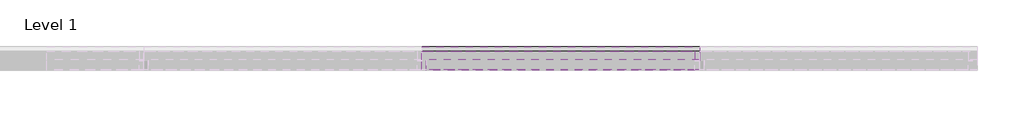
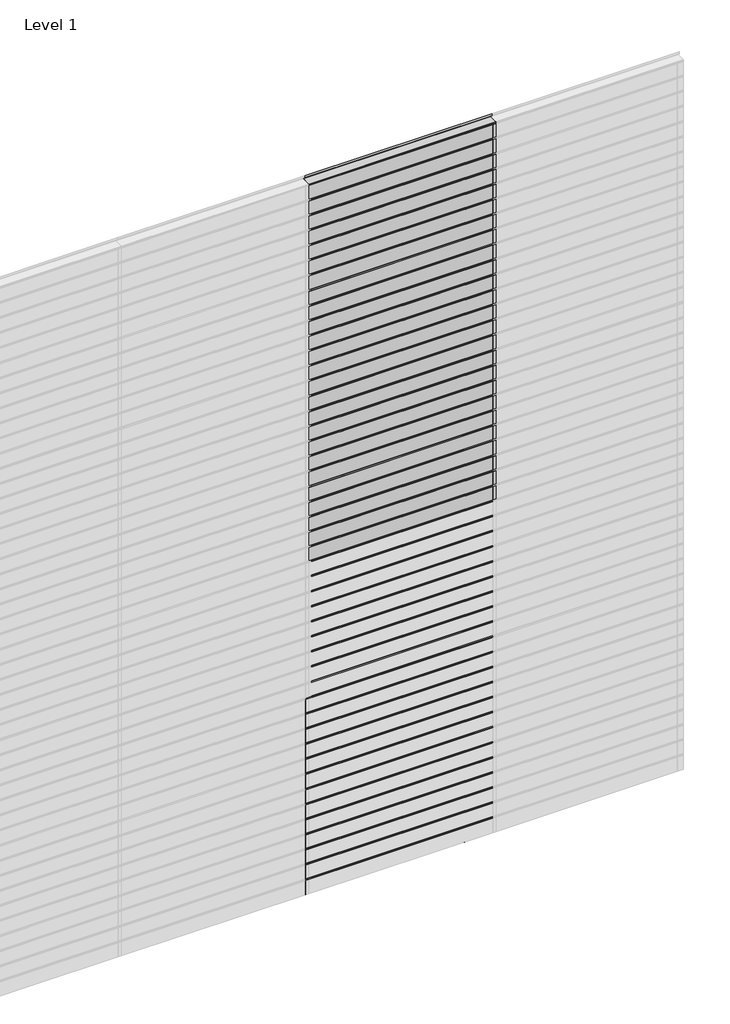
# One storey, part 4 of 6: 73 plates, 60 members.
"""IFC4 building model written with IfcOpenShell, lengths in millimetres."""

from ifc_helpers import new_model, si_unit, origin, place, context, project, spatial, transform, mapped, element, save
from components import rectangular_mullion_0894c78b, rectangular_mullion_172e3795, empty_system_panel_empty_a47fb649, empty_system_panel_empty_1618a703, empty_system_panel_empty_03f415d5

model = new_model("IFC4")

# Units and contexts
model_context = context("Model", 3, world=origin())
ifc_project = project(units=[si_unit("LENGTHUNIT", "METRE", prefix="MILLI")], contexts=[model_context])

# Site, building, storey
site = spatial("IfcSite", under=ifc_project)
building = spatial("IfcBuilding", under=site)
storey = spatial("IfcBuildingStorey", under=building, Name="Level 1", Elevation=0.0)

# Members
placement = place(None, origin())
rectangular_mullion_shape = rectangular_mullion_0894c78b(model_context)
element("IfcMember", 1, ObjectType="Rectangular Mullion : RSen_21_CWM_blade - 100 C_gen_duco projects", at=placement, inside=storey, context=model_context, shape_type="MappedRepresentation", body=[
    mapped(rectangular_mullion_shape, transform((3000.0, 3000.0, 127.5), x_axis=(0.0, 0.0, 1.0), y_axis=(0.0, 1.0, 0.0), z_axis=(-1.0, 0.0, 0.0))),
])
element("IfcMember", 2, ObjectType="Rectangular Mullion : RSen_21_CWM_blade - 100 C_gen_duco projects", at=placement, inside=storey, context=model_context, shape_type="MappedRepresentation", body=[
    mapped(rectangular_mullion_shape, transform((3000.0, 3000.0, 255.0), x_axis=(0.0, 0.0, 1.0), y_axis=(0.0, 1.0, 0.0), z_axis=(-1.0, 0.0, 0.0))),
])
element("IfcMember", 3, ObjectType="Rectangular Mullion : RSen_21_CWM_blade - 100 C_gen_duco projects", at=placement, inside=storey, context=model_context, shape_type="MappedRepresentation", body=[
    mapped(rectangular_mullion_shape, transform((3000.0, 3000.0, 382.5), x_axis=(0.0, 0.0, 1.0), y_axis=(0.0, 1.0, 0.0), z_axis=(-1.0, 0.0, 0.0))),
])
element("IfcMember", 4, ObjectType="Rectangular Mullion : RSen_21_CWM_blade - 100 C_gen_duco projects", at=placement, inside=storey, context=model_context, shape_type="MappedRepresentation", body=[
    mapped(rectangular_mullion_shape, transform((3000.0, 3000.0, 510.0), x_axis=(0.0, 0.0, 1.0), y_axis=(0.0, 1.0, 0.0), z_axis=(-1.0, 0.0, 0.0))),
])
element("IfcMember", 5, ObjectType="Rectangular Mullion : RSen_21_CWM_blade - 100 C_gen_duco projects", at=placement, inside=storey, context=model_context, shape_type="MappedRepresentation", body=[
    mapped(rectangular_mullion_shape, transform((3000.0, 3000.0, 637.5), x_axis=(0.0, 0.0, 1.0), y_axis=(0.0, 1.0, 0.0), z_axis=(-1.0, 0.0, 0.0))),
])
element("IfcMember", 6, ObjectType="Rectangular Mullion : RSen_21_CWM_blade - 100 C_gen_duco projects", at=placement, inside=storey, context=model_context, shape_type="MappedRepresentation", body=[
    mapped(rectangular_mullion_shape, transform((3000.0, 3000.0, 765.0), x_axis=(0.0, 0.0, 1.0), y_axis=(0.0, 1.0, 0.0), z_axis=(-1.0, 0.0, 0.0))),
])
element("IfcMember", 7, ObjectType="Rectangular Mullion : RSen_21_CWM_blade - 100 C_gen_duco projects", at=placement, inside=storey, context=model_context, shape_type="MappedRepresentation", body=[
    mapped(rectangular_mullion_shape, transform((3000.0, 3000.0, 892.5), x_axis=(0.0, 0.0, 1.0), y_axis=(0.0, 1.0, 0.0), z_axis=(-1.0, 0.0, 0.0))),
])
element("IfcMember", 8, ObjectType="Rectangular Mullion : RSen_21_CWM_blade - 100 C_gen_duco projects", at=placement, inside=storey, context=model_context, shape_type="MappedRepresentation", body=[
    mapped(rectangular_mullion_shape, transform((3000.0, 3000.0, 1020.0), x_axis=(0.0, 0.0, 1.0), y_axis=(0.0, 1.0, 0.0), z_axis=(-1.0, 0.0, 0.0))),
])
element("IfcMember", 9, ObjectType="Rectangular Mullion : RSen_21_CWM_blade - 100 C_gen_duco projects", at=placement, inside=storey, context=model_context, shape_type="MappedRepresentation", body=[
    mapped(rectangular_mullion_shape, transform((3000.0, 3000.0, 1147.5), x_axis=(0.0, 0.0, 1.0), y_axis=(0.0, 1.0, 0.0), z_axis=(-1.0, 0.0, 0.0))),
])
element("IfcMember", 10, ObjectType="Rectangular Mullion : RSen_21_CWM_blade - 100 C_gen_duco projects", at=placement, inside=storey, context=model_context, shape_type="MappedRepresentation", body=[
    mapped(rectangular_mullion_shape, transform((3000.0, 3000.0, 1275.0), x_axis=(0.0, 0.0, 1.0), y_axis=(0.0, 1.0, 0.0), z_axis=(-1.0, 0.0, 0.0))),
])
element("IfcMember", 11, ObjectType="Rectangular Mullion : RSen_21_CWM_blade - 100 C_gen_duco projects", at=placement, inside=storey, context=model_context, shape_type="MappedRepresentation", body=[
    mapped(rectangular_mullion_shape, transform((3000.0, 3000.0, 1402.5), x_axis=(0.0, 0.0, 1.0), y_axis=(0.0, 1.0, 0.0), z_axis=(-1.0, 0.0, 0.0))),
])
element("IfcMember", 12, ObjectType="Rectangular Mullion : RSen_21_CWM_blade - 100 C_gen_duco projects", at=placement, inside=storey, context=model_context, shape_type="MappedRepresentation", body=[
    mapped(rectangular_mullion_shape, transform((3000.0, 3000.0, 1530.0), x_axis=(0.0, 0.0, 1.0), y_axis=(0.0, 1.0, 0.0), z_axis=(-1.0, 0.0, 0.0))),
])
element("IfcMember", 13, ObjectType="Rectangular Mullion : RSen_21_CWM_blade - 100 C_gen_duco projects", at=placement, inside=storey, context=model_context, shape_type="MappedRepresentation", body=[
    mapped(rectangular_mullion_shape, transform((3000.0, 3000.0, 1657.5), x_axis=(0.0, 0.0, 1.0), y_axis=(0.0, 1.0, 0.0), z_axis=(-1.0, 0.0, 0.0))),
])
element("IfcMember", 14, ObjectType="Rectangular Mullion : RSen_21_CWM_blade - 100 C_gen_duco projects", at=placement, inside=storey, context=model_context, shape_type="MappedRepresentation", body=[
    mapped(rectangular_mullion_shape, transform((3000.0, 3000.0, 1785.0), x_axis=(0.0, 0.0, 1.0), y_axis=(0.0, 1.0, 0.0), z_axis=(-1.0, 0.0, 0.0))),
])
element("IfcMember", 15, ObjectType="Rectangular Mullion : RSen_21_CWM_blade - 100 C_gen_duco projects", at=placement, inside=storey, context=model_context, shape_type="MappedRepresentation", body=[
    mapped(rectangular_mullion_shape, transform((3000.0, 3000.0, 1912.5), x_axis=(0.0, 0.0, 1.0), y_axis=(0.0, 1.0, 0.0), z_axis=(-1.0, 0.0, 0.0))),
])
element("IfcMember", 16, ObjectType="Rectangular Mullion : RSen_21_CWM_blade - 100 C_gen_duco projects", at=placement, inside=storey, context=model_context, shape_type="MappedRepresentation", body=[
    mapped(rectangular_mullion_shape, transform((3000.0, 3000.0, 2040.0), x_axis=(0.0, 0.0, 1.0), y_axis=(0.0, 1.0, 0.0), z_axis=(-1.0, 0.0, 0.0))),
])
element("IfcMember", 17, ObjectType="Rectangular Mullion : RSen_21_CWM_blade - 100 C_gen_duco projects", at=placement, inside=storey, context=model_context, shape_type="MappedRepresentation", body=[
    mapped(rectangular_mullion_shape, transform((3000.0, 3000.0, 2167.5), x_axis=(0.0, 0.0, 1.0), y_axis=(0.0, 1.0, 0.0), z_axis=(-1.0, 0.0, 0.0))),
])
element("IfcMember", 18, ObjectType="Rectangular Mullion : RSen_21_CWM_blade - 100 C_gen_duco projects", at=placement, inside=storey, context=model_context, shape_type="MappedRepresentation", body=[
    mapped(rectangular_mullion_shape, transform((3000.0, 3000.0, 2295.0), x_axis=(0.0, 0.0, 1.0), y_axis=(0.0, 1.0, 0.0), z_axis=(-1.0, 0.0, 0.0))),
])
element("IfcMember", 19, ObjectType="Rectangular Mullion : RSen_21_CWM_blade - 100 C_gen_duco projects", at=placement, inside=storey, context=model_context, shape_type="MappedRepresentation", body=[
    mapped(rectangular_mullion_shape, transform((3000.0, 3000.0, 2422.5), x_axis=(0.0, 0.0, 1.0), y_axis=(0.0, 1.0, 0.0), z_axis=(-1.0, 0.0, 0.0))),
])
element("IfcMember", 20, ObjectType="Rectangular Mullion : RSen_21_CWM_blade - 100 C_gen_duco projects", at=placement, inside=storey, context=model_context, shape_type="MappedRepresentation", body=[
    mapped(rectangular_mullion_shape, transform((3000.0, 3000.0, 2550.0), x_axis=(0.0, 0.0, 1.0), y_axis=(0.0, 1.0, 0.0), z_axis=(-1.0, 0.0, 0.0))),
])
element("IfcMember", 21, ObjectType="Rectangular Mullion : RSen_21_CWM_blade - 100 C_gen_duco projects", at=placement, inside=storey, context=model_context, shape_type="MappedRepresentation", body=[
    mapped(rectangular_mullion_shape, transform((3000.0, 3000.0, 2677.5), x_axis=(0.0, 0.0, 1.0), y_axis=(0.0, 1.0, 0.0), z_axis=(-1.0, 0.0, 0.0))),
])
element("IfcMember", 22, ObjectType="Rectangular Mullion : RSen_21_CWM_blade - 100 C_gen_duco projects", at=placement, inside=storey, context=model_context, shape_type="MappedRepresentation", body=[
    mapped(rectangular_mullion_shape, transform((3000.0, 3000.0, 2805.0), x_axis=(0.0, 0.0, 1.0), y_axis=(0.0, 1.0, 0.0), z_axis=(-1.0, 0.0, 0.0))),
])
element("IfcMember", 23, ObjectType="Rectangular Mullion : RSen_21_CWM_blade - 100 C_gen_duco projects", at=placement, inside=storey, context=model_context, shape_type="MappedRepresentation", body=[
    mapped(rectangular_mullion_shape, transform((3000.0, 3000.0, 2932.5), x_axis=(0.0, 0.0, 1.0), y_axis=(0.0, 1.0, 0.0), z_axis=(-1.0, 0.0, 0.0))),
])
element("IfcMember", 24, ObjectType="Rectangular Mullion : RSen_21_CWM_blade - 100 C_gen_duco projects", at=placement, inside=storey, context=model_context, shape_type="MappedRepresentation", body=[
    mapped(rectangular_mullion_shape, transform((3000.0, 3000.0, 3060.0), x_axis=(0.0, 0.0, 1.0), y_axis=(0.0, 1.0, 0.0), z_axis=(-1.0, 0.0, 0.0))),
])
element("IfcMember", 25, ObjectType="Rectangular Mullion : RSen_21_CWM_blade - 100 C_gen_duco projects", at=placement, inside=storey, context=model_context, shape_type="MappedRepresentation", body=[
    mapped(rectangular_mullion_shape, transform((3000.0, 3000.0, 3187.5), x_axis=(0.0, 0.0, 1.0), y_axis=(0.0, 1.0, 0.0), z_axis=(-1.0, 0.0, 0.0))),
])
element("IfcMember", 26, ObjectType="Rectangular Mullion : RSen_21_CWM_blade - 100 C_gen_duco projects", at=placement, inside=storey, context=model_context, shape_type="MappedRepresentation", body=[
    mapped(rectangular_mullion_shape, transform((3000.0, 3000.0, 3315.0), x_axis=(0.0, 0.0, 1.0), y_axis=(0.0, 1.0, 0.0), z_axis=(-1.0, 0.0, 0.0))),
])
element("IfcMember", 27, ObjectType="Rectangular Mullion : RSen_21_CWM_blade - 100 C_gen_duco projects", at=placement, inside=storey, context=model_context, shape_type="MappedRepresentation", body=[
    mapped(rectangular_mullion_shape, transform((3000.0, 3000.0, 3442.5), x_axis=(0.0, 0.0, 1.0), y_axis=(0.0, 1.0, 0.0), z_axis=(-1.0, 0.0, 0.0))),
])
element("IfcMember", 28, ObjectType="Rectangular Mullion : RSen_21_CWM_blade - 100 C_gen_duco projects", at=placement, inside=storey, context=model_context, shape_type="MappedRepresentation", body=[
    mapped(rectangular_mullion_shape, transform((3000.0, 3000.0, 3570.0), x_axis=(0.0, 0.0, 1.0), y_axis=(0.0, 1.0, 0.0), z_axis=(-1.0, 0.0, 0.0))),
])
element("IfcMember", 29, ObjectType="Rectangular Mullion : RSen_21_CWM_blade - 100 C_gen_duco projects", at=placement, inside=storey, context=model_context, shape_type="MappedRepresentation", body=[
    mapped(rectangular_mullion_shape, transform((3000.0, 3000.0, 3697.5), x_axis=(0.0, 0.0, 1.0), y_axis=(0.0, 1.0, 0.0), z_axis=(-1.0, 0.0, 0.0))),
])
element("IfcMember", 30, ObjectType="Rectangular Mullion : RSen_21_CWM_blade - 100 C_gen_duco projects", at=placement, inside=storey, context=model_context, shape_type="MappedRepresentation", body=[
    mapped(rectangular_mullion_shape, transform((3000.0, 3000.0, 3825.0), x_axis=(0.0, 0.0, 1.0), y_axis=(0.0, 1.0, 0.0), z_axis=(-1.0, 0.0, 0.0))),
])
element("IfcMember", 31, ObjectType="Rectangular Mullion : RSen_21_CWM_blade - 100 C_gen_duco projects", at=placement, inside=storey, context=model_context, shape_type="MappedRepresentation", body=[
    mapped(rectangular_mullion_shape, transform((3000.0, 3000.0, 3952.5), x_axis=(0.0, 0.0, 1.0), y_axis=(0.0, 1.0, 0.0), z_axis=(-1.0, 0.0, 0.0))),
])
element("IfcMember", 32, ObjectType="Rectangular Mullion : RSen_21_CWM_blade - 100 C_gen_duco projects", at=placement, inside=storey, context=model_context, shape_type="MappedRepresentation", body=[
    mapped(rectangular_mullion_shape, transform((3000.0, 3000.0, 4080.0), x_axis=(0.0, 0.0, 1.0), y_axis=(0.0, 1.0, 0.0), z_axis=(-1.0, 0.0, 0.0))),
])
element("IfcMember", 33, ObjectType="Rectangular Mullion : RSen_21_CWM_blade - 100 C_gen_duco projects", at=placement, inside=storey, context=model_context, shape_type="MappedRepresentation", body=[
    mapped(rectangular_mullion_shape, transform((3000.0, 3000.0, 4207.5), x_axis=(0.0, 0.0, 1.0), y_axis=(0.0, 1.0, 0.0), z_axis=(-1.0, 0.0, 0.0))),
])
element("IfcMember", 34, ObjectType="Rectangular Mullion : RSen_21_CWM_blade - 100 C_gen_duco projects", at=placement, inside=storey, context=model_context, shape_type="MappedRepresentation", body=[
    mapped(rectangular_mullion_shape, transform((3000.0, 3000.0, 4335.0), x_axis=(0.0, 0.0, 1.0), y_axis=(0.0, 1.0, 0.0), z_axis=(-1.0, 0.0, 0.0))),
])
element("IfcMember", 35, ObjectType="Rectangular Mullion : RSen_21_CWM_blade - 100 C_gen_duco projects", at=placement, inside=storey, context=model_context, shape_type="MappedRepresentation", body=[
    mapped(rectangular_mullion_shape, transform((3000.0, 3000.0, 4462.5), x_axis=(0.0, 0.0, 1.0), y_axis=(0.0, 1.0, 0.0), z_axis=(-1.0, 0.0, 0.0))),
])
element("IfcMember", 36, ObjectType="Rectangular Mullion : RSen_21_CWM_blade - 100 C_gen_duco projects", at=placement, inside=storey, context=model_context, shape_type="MappedRepresentation", body=[
    mapped(rectangular_mullion_shape, transform((3000.0, 3000.0, 4590.0), x_axis=(0.0, 0.0, 1.0), y_axis=(0.0, 1.0, 0.0), z_axis=(-1.0, 0.0, 0.0))),
])
element("IfcMember", 37, ObjectType="Rectangular Mullion : RSen_21_CWM_blade - 100 C_gen_duco projects", at=placement, inside=storey, context=model_context, shape_type="MappedRepresentation", body=[
    mapped(rectangular_mullion_shape, transform((3000.0, 3000.0, 4717.5), x_axis=(0.0, 0.0, 1.0), y_axis=(0.0, 1.0, 0.0), z_axis=(-1.0, 0.0, 0.0))),
])
element("IfcMember", 38, ObjectType="Rectangular Mullion : RSen_21_CWM_blade - 100 C_gen_duco projects", at=placement, inside=storey, context=model_context, shape_type="MappedRepresentation", body=[
    mapped(rectangular_mullion_shape, transform((3000.0, 3000.0, 4845.0), x_axis=(0.0, 0.0, 1.0), y_axis=(0.0, 1.0, 0.0), z_axis=(-1.0, 0.0, 0.0))),
])
element("IfcMember", 39, ObjectType="Rectangular Mullion : RSen_21_CWM_blade - 100 C_gen_duco projects", at=placement, inside=storey, context=model_context, shape_type="MappedRepresentation", body=[
    mapped(rectangular_mullion_shape, transform((3000.0, 3000.0, 4972.5), x_axis=(0.0, 0.0, 1.0), y_axis=(0.0, 1.0, 0.0), z_axis=(-1.0, 0.0, 0.0))),
])
element("IfcMember", 40, ObjectType="Rectangular Mullion : RSen_21_CWM_blade - 100 C_gen_duco projects", at=placement, inside=storey, context=model_context, shape_type="MappedRepresentation", body=[
    mapped(rectangular_mullion_shape, transform((3000.0, 3000.0, 5100.0), x_axis=(0.0, 0.0, 1.0), y_axis=(0.0, 1.0, 0.0), z_axis=(-1.0, 0.0, 0.0))),
])
element("IfcMember", 41, ObjectType="Rectangular Mullion : RSen_21_CWM_blade - 100 C_gen_duco projects", at=placement, inside=storey, context=model_context, shape_type="MappedRepresentation", body=[
    mapped(rectangular_mullion_shape, transform((3000.0, 3000.0, 5227.5), x_axis=(0.0, 0.0, 1.0), y_axis=(0.0, 1.0, 0.0), z_axis=(-1.0, 0.0, 0.0))),
])
element("IfcMember", 42, ObjectType="Rectangular Mullion : RSen_21_CWM_blade - 100 C_gen_duco projects", at=placement, inside=storey, context=model_context, shape_type="MappedRepresentation", body=[
    mapped(rectangular_mullion_shape, transform((3000.0, 3000.0, 5355.0), x_axis=(0.0, 0.0, 1.0), y_axis=(0.0, 1.0, 0.0), z_axis=(-1.0, 0.0, 0.0))),
])
element("IfcMember", 43, ObjectType="Rectangular Mullion : RSen_21_CWM_blade - 100 C_gen_duco projects", at=placement, inside=storey, context=model_context, shape_type="MappedRepresentation", body=[
    mapped(rectangular_mullion_shape, transform((3000.0, 3000.0, 5482.5), x_axis=(0.0, 0.0, 1.0), y_axis=(0.0, 1.0, 0.0), z_axis=(-1.0, 0.0, 0.0))),
])
element("IfcMember", 44, ObjectType="Rectangular Mullion : RSen_21_CWM_blade - 100 C_gen_duco projects", at=placement, inside=storey, context=model_context, shape_type="MappedRepresentation", body=[
    mapped(rectangular_mullion_shape, transform((3000.0, 3000.0, 5610.0), x_axis=(0.0, 0.0, 1.0), y_axis=(0.0, 1.0, 0.0), z_axis=(-1.0, 0.0, 0.0))),
])
element("IfcMember", 45, ObjectType="Rectangular Mullion : RSen_21_CWM_blade - 100 C_gen_duco projects", at=placement, inside=storey, context=model_context, shape_type="MappedRepresentation", body=[
    mapped(rectangular_mullion_shape, transform((3000.0, 3000.0, 5737.5), x_axis=(0.0, 0.0, 1.0), y_axis=(0.0, 1.0, 0.0), z_axis=(-1.0, 0.0, 0.0))),
])
element("IfcMember", 46, ObjectType="Rectangular Mullion : RSen_21_CWM_blade - 100 C_gen_duco projects", at=placement, inside=storey, context=model_context, shape_type="MappedRepresentation", body=[
    mapped(rectangular_mullion_shape, transform((3000.0, 3000.0, 5865.0), x_axis=(0.0, 0.0, 1.0), y_axis=(0.0, 1.0, 0.0), z_axis=(-1.0, 0.0, 0.0))),
])
element("IfcMember", 47, ObjectType="Rectangular Mullion : RSen_21_CWM_blade - 100 C_gen_duco projects", at=placement, inside=storey, context=model_context, shape_type="MappedRepresentation", body=[
    mapped(rectangular_mullion_shape, transform((3000.0, 3000.0, 5992.5), x_axis=(0.0, 0.0, 1.0), y_axis=(0.0, 1.0, 0.0), z_axis=(-1.0, 0.0, 0.0))),
])
rectangular_mullion_2_shape = rectangular_mullion_172e3795(model_context)
element("IfcMember", 48, ObjectType="Rectangular Mullion : RSen_21_CWM_support profile 50x50_gen_duco projects", at=placement, inside=storey, context=model_context, shape_type="MappedRepresentation", body=[
    mapped(rectangular_mullion_2_shape, transform((3000.0, 3000.0, 0.0), x_axis=(-1.0, 0.0, 0.0), y_axis=(0.0, 1.0, 0.0), z_axis=(0.0, 0.0, -1.0))),
])
element("IfcMember", 49, ObjectType="Rectangular Mullion : RSen_21_CWM_support profile 50x50_gen_duco projects", at=placement, inside=storey, context=model_context, shape_type="MappedRepresentation", body=[
    mapped(rectangular_mullion_2_shape, transform((3000.0, 3000.0, 127.5), x_axis=(-1.0, 0.0, 0.0), y_axis=(0.0, 1.0, 0.0), z_axis=(0.0, 0.0, -1.0))),
])
element("IfcMember", 50, ObjectType="Rectangular Mullion : RSen_21_CWM_support profile 50x50_gen_duco projects", at=placement, inside=storey, context=model_context, shape_type="MappedRepresentation", body=[
    mapped(rectangular_mullion_2_shape, transform((3000.0, 3000.0, 255.0), x_axis=(-1.0, 0.0, 0.0), y_axis=(0.0, 1.0, 0.0), z_axis=(0.0, 0.0, -1.0))),
])
element("IfcMember", 51, ObjectType="Rectangular Mullion : RSen_21_CWM_support profile 50x50_gen_duco projects", at=placement, inside=storey, context=model_context, shape_type="MappedRepresentation", body=[
    mapped(rectangular_mullion_2_shape, transform((3000.0, 3000.0, 382.5), x_axis=(-1.0, 0.0, 0.0), y_axis=(0.0, 1.0, 0.0), z_axis=(0.0, 0.0, -1.0))),
])
element("IfcMember", 52, ObjectType="Rectangular Mullion : RSen_21_CWM_support profile 50x50_gen_duco projects", at=placement, inside=storey, context=model_context, shape_type="MappedRepresentation", body=[
    mapped(rectangular_mullion_2_shape, transform((3000.0, 3000.0, 510.0), x_axis=(-1.0, 0.0, 0.0), y_axis=(0.0, 1.0, 0.0), z_axis=(0.0, 0.0, -1.0))),
])
element("IfcMember", 53, ObjectType="Rectangular Mullion : RSen_21_CWM_support profile 50x50_gen_duco projects", at=placement, inside=storey, context=model_context, shape_type="MappedRepresentation", body=[
    mapped(rectangular_mullion_2_shape, transform((3000.0, 3000.0, 637.5), x_axis=(-1.0, 0.0, 0.0), y_axis=(0.0, 1.0, 0.0), z_axis=(0.0, 0.0, -1.0))),
])
element("IfcMember", 54, ObjectType="Rectangular Mullion : RSen_21_CWM_support profile 50x50_gen_duco projects", at=placement, inside=storey, context=model_context, shape_type="MappedRepresentation", body=[
    mapped(rectangular_mullion_2_shape, transform((3000.0, 3000.0, 765.0), x_axis=(-1.0, 0.0, 0.0), y_axis=(0.0, 1.0, 0.0), z_axis=(0.0, 0.0, -1.0))),
])
element("IfcMember", 55, ObjectType="Rectangular Mullion : RSen_21_CWM_support profile 50x50_gen_duco projects", at=placement, inside=storey, context=model_context, shape_type="MappedRepresentation", body=[
    mapped(rectangular_mullion_2_shape, transform((3000.0, 3000.0, 892.5), x_axis=(-1.0, 0.0, 0.0), y_axis=(0.0, 1.0, 0.0), z_axis=(0.0, 0.0, -1.0))),
])
element("IfcMember", 56, ObjectType="Rectangular Mullion : RSen_21_CWM_support profile 50x50_gen_duco projects", at=placement, inside=storey, context=model_context, shape_type="MappedRepresentation", body=[
    mapped(rectangular_mullion_2_shape, transform((3000.0, 3000.0, 1020.0), x_axis=(-1.0, 0.0, 0.0), y_axis=(0.0, 1.0, 0.0), z_axis=(0.0, 0.0, -1.0))),
])
element("IfcMember", 57, ObjectType="Rectangular Mullion : RSen_21_CWM_support profile 50x50_gen_duco projects", at=placement, inside=storey, context=model_context, shape_type="MappedRepresentation", body=[
    mapped(rectangular_mullion_2_shape, transform((3000.0, 3000.0, 1147.5), x_axis=(-1.0, 0.0, 0.0), y_axis=(0.0, 1.0, 0.0), z_axis=(0.0, 0.0, -1.0))),
])
element("IfcMember", 58, ObjectType="Rectangular Mullion : RSen_21_CWM_support profile 50x50_gen_duco projects", at=placement, inside=storey, context=model_context, shape_type="MappedRepresentation", body=[
    mapped(rectangular_mullion_2_shape, transform((3000.0, 3000.0, 1275.0), x_axis=(-1.0, 0.0, 0.0), y_axis=(0.0, 1.0, 0.0), z_axis=(0.0, 0.0, -1.0))),
])
element("IfcMember", 59, ObjectType="Rectangular Mullion : RSen_21_CWM_support profile 50x50_gen_duco projects", at=placement, inside=storey, context=model_context, shape_type="MappedRepresentation", body=[
    mapped(rectangular_mullion_2_shape, transform((3000.0, 3000.0, 1402.5), x_axis=(-1.0, 0.0, 0.0), y_axis=(0.0, 1.0, 0.0), z_axis=(0.0, 0.0, -1.0))),
])
element("IfcMember", 60, ObjectType="Rectangular Mullion : RSen_21_CWM_support profile 50x50_gen_duco projects", at=placement, inside=storey, context=model_context, shape_type="MappedRepresentation", body=[
    mapped(rectangular_mullion_2_shape, transform((3000.0, 3000.0, 1530.0), x_axis=(-1.0, 0.0, 0.0), y_axis=(0.0, 1.0, 0.0), z_axis=(0.0, 0.0, -1.0))),
])

# Plates
empty_system_panel_empty_shape = empty_system_panel_empty_a47fb649(model_context)
element("IfcPlate", 61, ObjectType="Empty System Panel : Empty", at=placement, inside=storey, context=model_context, shape_type="MappedRepresentation", body=[
    mapped(empty_system_panel_empty_shape, transform((3750.0, 3000.0, 2813.4852814), x_axis=(-1.0, 0.0, 0.0), y_axis=(0.0, -1.0, 0.0), z_axis=(0.0, 0.0, 1.0))),
])
element("IfcPlate", 62, ObjectType="Empty System Panel : Empty", at=placement, inside=storey, context=model_context, shape_type="MappedRepresentation", body=[
    mapped(empty_system_panel_empty_shape, transform((3750.0, 3000.0, 2940.9852814), x_axis=(-1.0, 0.0, 0.0), y_axis=(0.0, -1.0, 0.0), z_axis=(0.0, 0.0, 1.0))),
])
element("IfcPlate", 63, ObjectType="Empty System Panel : Empty", at=placement, inside=storey, context=model_context, shape_type="MappedRepresentation", body=[
    mapped(empty_system_panel_empty_shape, transform((3750.0, 3000.0, 3068.4852814), x_axis=(-1.0, 0.0, 0.0), y_axis=(0.0, -1.0, 0.0), z_axis=(0.0, 0.0, 1.0))),
])
element("IfcPlate", 64, ObjectType="Empty System Panel : Empty", at=placement, inside=storey, context=model_context, shape_type="MappedRepresentation", body=[
    mapped(empty_system_panel_empty_shape, transform((3750.0, 3000.0, 3195.9852814), x_axis=(-1.0, 0.0, 0.0), y_axis=(0.0, -1.0, 0.0), z_axis=(0.0, 0.0, 1.0))),
])
element("IfcPlate", 65, ObjectType="Empty System Panel : Empty", at=placement, inside=storey, context=model_context, shape_type="MappedRepresentation", body=[
    mapped(empty_system_panel_empty_shape, transform((3750.0, 3000.0, 3323.4852814), x_axis=(-1.0, 0.0, 0.0), y_axis=(0.0, -1.0, 0.0), z_axis=(0.0, 0.0, 1.0))),
])
element("IfcPlate", 66, ObjectType="Empty System Panel : Empty", at=placement, inside=storey, context=model_context, shape_type="MappedRepresentation", body=[
    mapped(empty_system_panel_empty_shape, transform((3750.0, 3000.0, 3450.9852814), x_axis=(-1.0, 0.0, 0.0), y_axis=(0.0, -1.0, 0.0), z_axis=(0.0, 0.0, 1.0))),
])
element("IfcPlate", 67, ObjectType="Empty System Panel : Empty", at=placement, inside=storey, context=model_context, shape_type="MappedRepresentation", body=[
    mapped(empty_system_panel_empty_shape, transform((3750.0, 3000.0, 3578.4852814), x_axis=(-1.0, 0.0, 0.0), y_axis=(0.0, -1.0, 0.0), z_axis=(0.0, 0.0, 1.0))),
])
element("IfcPlate", 68, ObjectType="Empty System Panel : Empty", at=placement, inside=storey, context=model_context, shape_type="MappedRepresentation", body=[
    mapped(empty_system_panel_empty_shape, transform((3750.0, 3000.0, 3705.9852814), x_axis=(-1.0, 0.0, 0.0), y_axis=(0.0, -1.0, 0.0), z_axis=(0.0, 0.0, 1.0))),
])
element("IfcPlate", 69, ObjectType="Empty System Panel : Empty", at=placement, inside=storey, context=model_context, shape_type="MappedRepresentation", body=[
    mapped(empty_system_panel_empty_shape, transform((3750.0, 3000.0, 3833.4852814), x_axis=(-1.0, 0.0, 0.0), y_axis=(0.0, -1.0, 0.0), z_axis=(0.0, 0.0, 1.0))),
])
element("IfcPlate", 70, ObjectType="Empty System Panel : Empty", at=placement, inside=storey, context=model_context, shape_type="MappedRepresentation", body=[
    mapped(empty_system_panel_empty_shape, transform((3750.0, 3000.0, 3960.9852814), x_axis=(-1.0, 0.0, 0.0), y_axis=(0.0, -1.0, 0.0), z_axis=(0.0, 0.0, 1.0))),
])
element("IfcPlate", 71, ObjectType="Empty System Panel : Empty", at=placement, inside=storey, context=model_context, shape_type="MappedRepresentation", body=[
    mapped(empty_system_panel_empty_shape, transform((3750.0, 3000.0, 4088.4852814), x_axis=(-1.0, 0.0, 0.0), y_axis=(0.0, -1.0, 0.0), z_axis=(0.0, 0.0, 1.0))),
])
element("IfcPlate", 72, ObjectType="Empty System Panel : Empty", at=placement, inside=storey, context=model_context, shape_type="MappedRepresentation", body=[
    mapped(empty_system_panel_empty_shape, transform((3750.0, 3000.0, 4215.9852814), x_axis=(-1.0, 0.0, 0.0), y_axis=(0.0, -1.0, 0.0), z_axis=(0.0, 0.0, 1.0))),
])
element("IfcPlate", 73, ObjectType="Empty System Panel : Empty", at=placement, inside=storey, context=model_context, shape_type="MappedRepresentation", body=[
    mapped(empty_system_panel_empty_shape, transform((3750.0, 3000.0, 4343.4852814), x_axis=(-1.0, 0.0, 0.0), y_axis=(0.0, -1.0, 0.0), z_axis=(0.0, 0.0, 1.0))),
])
element("IfcPlate", 74, ObjectType="Empty System Panel : Empty", at=placement, inside=storey, context=model_context, shape_type="MappedRepresentation", body=[
    mapped(empty_system_panel_empty_shape, transform((3750.0, 3000.0, 4470.9852814), x_axis=(-1.0, 0.0, 0.0), y_axis=(0.0, -1.0, 0.0), z_axis=(0.0, 0.0, 1.0))),
])
element("IfcPlate", 75, ObjectType="Empty System Panel : Empty", at=placement, inside=storey, context=model_context, shape_type="MappedRepresentation", body=[
    mapped(empty_system_panel_empty_shape, transform((3750.0, 3000.0, 4598.4852814), x_axis=(-1.0, 0.0, 0.0), y_axis=(0.0, -1.0, 0.0), z_axis=(0.0, 0.0, 1.0))),
])
element("IfcPlate", 76, ObjectType="Empty System Panel : Empty", at=placement, inside=storey, context=model_context, shape_type="MappedRepresentation", body=[
    mapped(empty_system_panel_empty_shape, transform((3750.0, 3000.0, 4725.9852814), x_axis=(-1.0, 0.0, 0.0), y_axis=(0.0, -1.0, 0.0), z_axis=(0.0, 0.0, 1.0))),
])
element("IfcPlate", 77, ObjectType="Empty System Panel : Empty", at=placement, inside=storey, context=model_context, shape_type="MappedRepresentation", body=[
    mapped(empty_system_panel_empty_shape, transform((3750.0, 3000.0, 4853.4852814), x_axis=(-1.0, 0.0, 0.0), y_axis=(0.0, -1.0, 0.0), z_axis=(0.0, 0.0, 1.0))),
])
element("IfcPlate", 78, ObjectType="Empty System Panel : Empty", at=placement, inside=storey, context=model_context, shape_type="MappedRepresentation", body=[
    mapped(empty_system_panel_empty_shape, transform((3750.0, 3000.0, 4980.9852814), x_axis=(-1.0, 0.0, 0.0), y_axis=(0.0, -1.0, 0.0), z_axis=(0.0, 0.0, 1.0))),
])
element("IfcPlate", 79, ObjectType="Empty System Panel : Empty", at=placement, inside=storey, context=model_context, shape_type="MappedRepresentation", body=[
    mapped(empty_system_panel_empty_shape, transform((3750.0, 3000.0, 5108.4852814), x_axis=(-1.0, 0.0, 0.0), y_axis=(0.0, -1.0, 0.0), z_axis=(0.0, 0.0, 1.0))),
])
element("IfcPlate", 80, ObjectType="Empty System Panel : Empty", at=placement, inside=storey, context=model_context, shape_type="MappedRepresentation", body=[
    mapped(empty_system_panel_empty_shape, transform((3750.0, 3000.0, 5235.9852814), x_axis=(-1.0, 0.0, 0.0), y_axis=(0.0, -1.0, 0.0), z_axis=(0.0, 0.0, 1.0))),
])
element("IfcPlate", 81, ObjectType="Empty System Panel : Empty", at=placement, inside=storey, context=model_context, shape_type="MappedRepresentation", body=[
    mapped(empty_system_panel_empty_shape, transform((3750.0, 3000.0, 5363.4852814), x_axis=(-1.0, 0.0, 0.0), y_axis=(0.0, -1.0, 0.0), z_axis=(0.0, 0.0, 1.0))),
])
element("IfcPlate", 82, ObjectType="Empty System Panel : Empty", at=placement, inside=storey, context=model_context, shape_type="MappedRepresentation", body=[
    mapped(empty_system_panel_empty_shape, transform((3750.0, 3000.0, 5490.9852814), x_axis=(-1.0, 0.0, 0.0), y_axis=(0.0, -1.0, 0.0), z_axis=(0.0, 0.0, 1.0))),
])
element("IfcPlate", 83, ObjectType="Empty System Panel : Empty", at=placement, inside=storey, context=model_context, shape_type="MappedRepresentation", body=[
    mapped(empty_system_panel_empty_shape, transform((3750.0, 3000.0, 5618.4852814), x_axis=(-1.0, 0.0, 0.0), y_axis=(0.0, -1.0, 0.0), z_axis=(0.0, 0.0, 1.0))),
])
element("IfcPlate", 84, ObjectType="Empty System Panel : Empty", at=placement, inside=storey, context=model_context, shape_type="MappedRepresentation", body=[
    mapped(empty_system_panel_empty_shape, transform((3750.0, 3000.0, 5745.9852814), x_axis=(-1.0, 0.0, 0.0), y_axis=(0.0, -1.0, 0.0), z_axis=(0.0, 0.0, 1.0))),
])
element("IfcPlate", 85, ObjectType="Empty System Panel : Empty", at=placement, inside=storey, context=model_context, shape_type="MappedRepresentation", body=[
    mapped(empty_system_panel_empty_shape, transform((3750.0, 3000.0, 5873.4852814), x_axis=(-1.0, 0.0, 0.0), y_axis=(0.0, -1.0, 0.0), z_axis=(0.0, 0.0, 1.0))),
])
empty_system_panel_empty_2_shape = empty_system_panel_empty_1618a703(model_context)
element("IfcPlate", 86, ObjectType="Empty System Panel : Empty", at=placement, inside=storey, context=model_context, shape_type="MappedRepresentation", body=[
    mapped(empty_system_panel_empty_2_shape, transform((3750.0, 3000.0, 0.0), x_axis=(-1.0, 0.0, 0.0), y_axis=(0.0, -1.0, 0.0), z_axis=(0.0, 0.0, 1.0))),
])
element("IfcPlate", 87, ObjectType="Empty System Panel : Empty", at=placement, inside=storey, context=model_context, shape_type="MappedRepresentation", body=[
    mapped(empty_system_panel_empty_2_shape, transform((3750.0, 3000.0, 127.5), x_axis=(-1.0, 0.0, 0.0), y_axis=(0.0, -1.0, 0.0), z_axis=(0.0, 0.0, 1.0))),
])
element("IfcPlate", 88, ObjectType="Empty System Panel : Empty", at=placement, inside=storey, context=model_context, shape_type="MappedRepresentation", body=[
    mapped(empty_system_panel_empty_2_shape, transform((3750.0, 3000.0, 255.0), x_axis=(-1.0, 0.0, 0.0), y_axis=(0.0, -1.0, 0.0), z_axis=(0.0, 0.0, 1.0))),
])
element("IfcPlate", 89, ObjectType="Empty System Panel : Empty", at=placement, inside=storey, context=model_context, shape_type="MappedRepresentation", body=[
    mapped(empty_system_panel_empty_2_shape, transform((3750.0, 3000.0, 382.5), x_axis=(-1.0, 0.0, 0.0), y_axis=(0.0, -1.0, 0.0), z_axis=(0.0, 0.0, 1.0))),
])
element("IfcPlate", 90, ObjectType="Empty System Panel : Empty", at=placement, inside=storey, context=model_context, shape_type="MappedRepresentation", body=[
    mapped(empty_system_panel_empty_2_shape, transform((3750.0, 3000.0, 510.0), x_axis=(-1.0, 0.0, 0.0), y_axis=(0.0, -1.0, 0.0), z_axis=(0.0, 0.0, 1.0))),
])
element("IfcPlate", 91, ObjectType="Empty System Panel : Empty", at=placement, inside=storey, context=model_context, shape_type="MappedRepresentation", body=[
    mapped(empty_system_panel_empty_2_shape, transform((3750.0, 3000.0, 637.5), x_axis=(-1.0, 0.0, 0.0), y_axis=(0.0, -1.0, 0.0), z_axis=(0.0, 0.0, 1.0))),
])
element("IfcPlate", 92, ObjectType="Empty System Panel : Empty", at=placement, inside=storey, context=model_context, shape_type="MappedRepresentation", body=[
    mapped(empty_system_panel_empty_2_shape, transform((3750.0, 3000.0, 765.0), x_axis=(-1.0, 0.0, 0.0), y_axis=(0.0, -1.0, 0.0), z_axis=(0.0, 0.0, 1.0))),
])
element("IfcPlate", 93, ObjectType="Empty System Panel : Empty", at=placement, inside=storey, context=model_context, shape_type="MappedRepresentation", body=[
    mapped(empty_system_panel_empty_2_shape, transform((3750.0, 3000.0, 892.5), x_axis=(-1.0, 0.0, 0.0), y_axis=(0.0, -1.0, 0.0), z_axis=(0.0, 0.0, 1.0))),
])
element("IfcPlate", 94, ObjectType="Empty System Panel : Empty", at=placement, inside=storey, context=model_context, shape_type="MappedRepresentation", body=[
    mapped(empty_system_panel_empty_2_shape, transform((3750.0, 3000.0, 1020.0), x_axis=(-1.0, 0.0, 0.0), y_axis=(0.0, -1.0, 0.0), z_axis=(0.0, 0.0, 1.0))),
])
element("IfcPlate", 95, ObjectType="Empty System Panel : Empty", at=placement, inside=storey, context=model_context, shape_type="MappedRepresentation", body=[
    mapped(empty_system_panel_empty_2_shape, transform((3750.0, 3000.0, 1147.5), x_axis=(-1.0, 0.0, 0.0), y_axis=(0.0, -1.0, 0.0), z_axis=(0.0, 0.0, 1.0))),
])
element("IfcPlate", 96, ObjectType="Empty System Panel : Empty", at=placement, inside=storey, context=model_context, shape_type="MappedRepresentation", body=[
    mapped(empty_system_panel_empty_2_shape, transform((3750.0, 3000.0, 1275.0), x_axis=(-1.0, 0.0, 0.0), y_axis=(0.0, -1.0, 0.0), z_axis=(0.0, 0.0, 1.0))),
])
element("IfcPlate", 97, ObjectType="Empty System Panel : Empty", at=placement, inside=storey, context=model_context, shape_type="MappedRepresentation", body=[
    mapped(empty_system_panel_empty_2_shape, transform((3750.0, 3000.0, 1402.5), x_axis=(-1.0, 0.0, 0.0), y_axis=(0.0, -1.0, 0.0), z_axis=(0.0, 0.0, 1.0))),
])
element("IfcPlate", 98, ObjectType="Empty System Panel : Empty", at=placement, inside=storey, context=model_context, shape_type="MappedRepresentation", body=[
    mapped(empty_system_panel_empty_2_shape, transform((3750.0, 3000.0, 1530.0), x_axis=(-1.0, 0.0, 0.0), y_axis=(0.0, -1.0, 0.0), z_axis=(0.0, 0.0, 1.0))),
])
element("IfcPlate", 99, ObjectType="Empty System Panel : Empty", at=placement, inside=storey, context=model_context, shape_type="MappedRepresentation", body=[
    mapped(empty_system_panel_empty_2_shape, transform((3750.0, 3000.0, 1657.5), x_axis=(-1.0, 0.0, 0.0), y_axis=(0.0, -1.0, 0.0), z_axis=(0.0, 0.0, 1.0))),
])
element("IfcPlate", 100, ObjectType="Empty System Panel : Empty", at=placement, inside=storey, context=model_context, shape_type="MappedRepresentation", body=[
    mapped(empty_system_panel_empty_2_shape, transform((3750.0, 3000.0, 1785.0), x_axis=(-1.0, 0.0, 0.0), y_axis=(0.0, -1.0, 0.0), z_axis=(0.0, 0.0, 1.0))),
])
element("IfcPlate", 101, ObjectType="Empty System Panel : Empty", at=placement, inside=storey, context=model_context, shape_type="MappedRepresentation", body=[
    mapped(empty_system_panel_empty_2_shape, transform((3750.0, 3000.0, 1912.5), x_axis=(-1.0, 0.0, 0.0), y_axis=(0.0, -1.0, 0.0), z_axis=(0.0, 0.0, 1.0))),
])
element("IfcPlate", 102, ObjectType="Empty System Panel : Empty", at=placement, inside=storey, context=model_context, shape_type="MappedRepresentation", body=[
    mapped(empty_system_panel_empty_2_shape, transform((3750.0, 3000.0, 2040.0), x_axis=(-1.0, 0.0, 0.0), y_axis=(0.0, -1.0, 0.0), z_axis=(0.0, 0.0, 1.0))),
])
element("IfcPlate", 103, ObjectType="Empty System Panel : Empty", at=placement, inside=storey, context=model_context, shape_type="MappedRepresentation", body=[
    mapped(empty_system_panel_empty_2_shape, transform((3750.0, 3000.0, 2167.5), x_axis=(-1.0, 0.0, 0.0), y_axis=(0.0, -1.0, 0.0), z_axis=(0.0, 0.0, 1.0))),
])
element("IfcPlate", 104, ObjectType="Empty System Panel : Empty", at=placement, inside=storey, context=model_context, shape_type="MappedRepresentation", body=[
    mapped(empty_system_panel_empty_2_shape, transform((3750.0, 3000.0, 2295.0), x_axis=(-1.0, 0.0, 0.0), y_axis=(0.0, -1.0, 0.0), z_axis=(0.0, 0.0, 1.0))),
])
element("IfcPlate", 105, ObjectType="Empty System Panel : Empty", at=placement, inside=storey, context=model_context, shape_type="MappedRepresentation", body=[
    mapped(empty_system_panel_empty_2_shape, transform((3750.0, 3000.0, 2422.5), x_axis=(-1.0, 0.0, 0.0), y_axis=(0.0, -1.0, 0.0), z_axis=(0.0, 0.0, 1.0))),
])
element("IfcPlate", 106, ObjectType="Empty System Panel : Empty", at=placement, inside=storey, context=model_context, shape_type="MappedRepresentation", body=[
    mapped(empty_system_panel_empty_2_shape, transform((3750.0, 3000.0, 2550.0), x_axis=(-1.0, 0.0, 0.0), y_axis=(0.0, -1.0, 0.0), z_axis=(0.0, 0.0, 1.0))),
])
element("IfcPlate", 107, ObjectType="Empty System Panel : Empty", at=placement, inside=storey, context=model_context, shape_type="MappedRepresentation", body=[
    mapped(empty_system_panel_empty_2_shape, transform((3750.0, 3000.0, 2677.5), x_axis=(-1.0, 0.0, 0.0), y_axis=(0.0, -1.0, 0.0), z_axis=(0.0, 0.0, 1.0))),
])
element("IfcPlate", 108, ObjectType="Empty System Panel : Empty", at=placement, inside=storey, context=model_context, shape_type="MappedRepresentation", body=[
    mapped(empty_system_panel_empty_2_shape, transform((3750.0, 3000.0, 2805.0), x_axis=(-1.0, 0.0, 0.0), y_axis=(0.0, -1.0, 0.0), z_axis=(0.0, 0.0, 1.0))),
])
element("IfcPlate", 109, ObjectType="Empty System Panel : Empty", at=placement, inside=storey, context=model_context, shape_type="MappedRepresentation", body=[
    mapped(empty_system_panel_empty_2_shape, transform((3750.0, 3000.0, 2932.5), x_axis=(-1.0, 0.0, 0.0), y_axis=(0.0, -1.0, 0.0), z_axis=(0.0, 0.0, 1.0))),
])
element("IfcPlate", 110, ObjectType="Empty System Panel : Empty", at=placement, inside=storey, context=model_context, shape_type="MappedRepresentation", body=[
    mapped(empty_system_panel_empty_2_shape, transform((3750.0, 3000.0, 3060.0), x_axis=(-1.0, 0.0, 0.0), y_axis=(0.0, -1.0, 0.0), z_axis=(0.0, 0.0, 1.0))),
])
element("IfcPlate", 111, ObjectType="Empty System Panel : Empty", at=placement, inside=storey, context=model_context, shape_type="MappedRepresentation", body=[
    mapped(empty_system_panel_empty_2_shape, transform((3750.0, 3000.0, 3187.5), x_axis=(-1.0, 0.0, 0.0), y_axis=(0.0, -1.0, 0.0), z_axis=(0.0, 0.0, 1.0))),
])
element("IfcPlate", 112, ObjectType="Empty System Panel : Empty", at=placement, inside=storey, context=model_context, shape_type="MappedRepresentation", body=[
    mapped(empty_system_panel_empty_2_shape, transform((3750.0, 3000.0, 3315.0), x_axis=(-1.0, 0.0, 0.0), y_axis=(0.0, -1.0, 0.0), z_axis=(0.0, 0.0, 1.0))),
])
element("IfcPlate", 113, ObjectType="Empty System Panel : Empty", at=placement, inside=storey, context=model_context, shape_type="MappedRepresentation", body=[
    mapped(empty_system_panel_empty_2_shape, transform((3750.0, 3000.0, 3442.5), x_axis=(-1.0, 0.0, 0.0), y_axis=(0.0, -1.0, 0.0), z_axis=(0.0, 0.0, 1.0))),
])
element("IfcPlate", 114, ObjectType="Empty System Panel : Empty", at=placement, inside=storey, context=model_context, shape_type="MappedRepresentation", body=[
    mapped(empty_system_panel_empty_2_shape, transform((3750.0, 3000.0, 3570.0), x_axis=(-1.0, 0.0, 0.0), y_axis=(0.0, -1.0, 0.0), z_axis=(0.0, 0.0, 1.0))),
])
element("IfcPlate", 115, ObjectType="Empty System Panel : Empty", at=placement, inside=storey, context=model_context, shape_type="MappedRepresentation", body=[
    mapped(empty_system_panel_empty_2_shape, transform((3750.0, 3000.0, 3697.5), x_axis=(-1.0, 0.0, 0.0), y_axis=(0.0, -1.0, 0.0), z_axis=(0.0, 0.0, 1.0))),
])
element("IfcPlate", 116, ObjectType="Empty System Panel : Empty", at=placement, inside=storey, context=model_context, shape_type="MappedRepresentation", body=[
    mapped(empty_system_panel_empty_2_shape, transform((3750.0, 3000.0, 3825.0), x_axis=(-1.0, 0.0, 0.0), y_axis=(0.0, -1.0, 0.0), z_axis=(0.0, 0.0, 1.0))),
])
element("IfcPlate", 117, ObjectType="Empty System Panel : Empty", at=placement, inside=storey, context=model_context, shape_type="MappedRepresentation", body=[
    mapped(empty_system_panel_empty_2_shape, transform((3750.0, 3000.0, 3952.5), x_axis=(-1.0, 0.0, 0.0), y_axis=(0.0, -1.0, 0.0), z_axis=(0.0, 0.0, 1.0))),
])
element("IfcPlate", 118, ObjectType="Empty System Panel : Empty", at=placement, inside=storey, context=model_context, shape_type="MappedRepresentation", body=[
    mapped(empty_system_panel_empty_2_shape, transform((3750.0, 3000.0, 4080.0), x_axis=(-1.0, 0.0, 0.0), y_axis=(0.0, -1.0, 0.0), z_axis=(0.0, 0.0, 1.0))),
])
element("IfcPlate", 119, ObjectType="Empty System Panel : Empty", at=placement, inside=storey, context=model_context, shape_type="MappedRepresentation", body=[
    mapped(empty_system_panel_empty_2_shape, transform((3750.0, 3000.0, 4207.5), x_axis=(-1.0, 0.0, 0.0), y_axis=(0.0, -1.0, 0.0), z_axis=(0.0, 0.0, 1.0))),
])
element("IfcPlate", 120, ObjectType="Empty System Panel : Empty", at=placement, inside=storey, context=model_context, shape_type="MappedRepresentation", body=[
    mapped(empty_system_panel_empty_2_shape, transform((3750.0, 3000.0, 4335.0), x_axis=(-1.0, 0.0, 0.0), y_axis=(0.0, -1.0, 0.0), z_axis=(0.0, 0.0, 1.0))),
])
element("IfcPlate", 121, ObjectType="Empty System Panel : Empty", at=placement, inside=storey, context=model_context, shape_type="MappedRepresentation", body=[
    mapped(empty_system_panel_empty_2_shape, transform((3750.0, 3000.0, 4462.5), x_axis=(-1.0, 0.0, 0.0), y_axis=(0.0, -1.0, 0.0), z_axis=(0.0, 0.0, 1.0))),
])
element("IfcPlate", 122, ObjectType="Empty System Panel : Empty", at=placement, inside=storey, context=model_context, shape_type="MappedRepresentation", body=[
    mapped(empty_system_panel_empty_2_shape, transform((3750.0, 3000.0, 4590.0), x_axis=(-1.0, 0.0, 0.0), y_axis=(0.0, -1.0, 0.0), z_axis=(0.0, 0.0, 1.0))),
])
element("IfcPlate", 123, ObjectType="Empty System Panel : Empty", at=placement, inside=storey, context=model_context, shape_type="MappedRepresentation", body=[
    mapped(empty_system_panel_empty_2_shape, transform((3750.0, 3000.0, 4717.5), x_axis=(-1.0, 0.0, 0.0), y_axis=(0.0, -1.0, 0.0), z_axis=(0.0, 0.0, 1.0))),
])
element("IfcPlate", 124, ObjectType="Empty System Panel : Empty", at=placement, inside=storey, context=model_context, shape_type="MappedRepresentation", body=[
    mapped(empty_system_panel_empty_2_shape, transform((3750.0, 3000.0, 4845.0), x_axis=(-1.0, 0.0, 0.0), y_axis=(0.0, -1.0, 0.0), z_axis=(0.0, 0.0, 1.0))),
])
element("IfcPlate", 125, ObjectType="Empty System Panel : Empty", at=placement, inside=storey, context=model_context, shape_type="MappedRepresentation", body=[
    mapped(empty_system_panel_empty_2_shape, transform((3750.0, 3000.0, 4972.5), x_axis=(-1.0, 0.0, 0.0), y_axis=(0.0, -1.0, 0.0), z_axis=(0.0, 0.0, 1.0))),
])
element("IfcPlate", 126, ObjectType="Empty System Panel : Empty", at=placement, inside=storey, context=model_context, shape_type="MappedRepresentation", body=[
    mapped(empty_system_panel_empty_2_shape, transform((3750.0, 3000.0, 5100.0), x_axis=(-1.0, 0.0, 0.0), y_axis=(0.0, -1.0, 0.0), z_axis=(0.0, 0.0, 1.0))),
])
element("IfcPlate", 127, ObjectType="Empty System Panel : Empty", at=placement, inside=storey, context=model_context, shape_type="MappedRepresentation", body=[
    mapped(empty_system_panel_empty_2_shape, transform((3750.0, 3000.0, 5227.5), x_axis=(-1.0, 0.0, 0.0), y_axis=(0.0, -1.0, 0.0), z_axis=(0.0, 0.0, 1.0))),
])
element("IfcPlate", 128, ObjectType="Empty System Panel : Empty", at=placement, inside=storey, context=model_context, shape_type="MappedRepresentation", body=[
    mapped(empty_system_panel_empty_2_shape, transform((3750.0, 3000.0, 5355.0), x_axis=(-1.0, 0.0, 0.0), y_axis=(0.0, -1.0, 0.0), z_axis=(0.0, 0.0, 1.0))),
])
element("IfcPlate", 129, ObjectType="Empty System Panel : Empty", at=placement, inside=storey, context=model_context, shape_type="MappedRepresentation", body=[
    mapped(empty_system_panel_empty_2_shape, transform((3750.0, 3000.0, 5482.5), x_axis=(-1.0, 0.0, 0.0), y_axis=(0.0, -1.0, 0.0), z_axis=(0.0, 0.0, 1.0))),
])
element("IfcPlate", 130, ObjectType="Empty System Panel : Empty", at=placement, inside=storey, context=model_context, shape_type="MappedRepresentation", body=[
    mapped(empty_system_panel_empty_2_shape, transform((3750.0, 3000.0, 5610.0), x_axis=(-1.0, 0.0, 0.0), y_axis=(0.0, -1.0, 0.0), z_axis=(0.0, 0.0, 1.0))),
])
element("IfcPlate", 131, ObjectType="Empty System Panel : Empty", at=placement, inside=storey, context=model_context, shape_type="MappedRepresentation", body=[
    mapped(empty_system_panel_empty_2_shape, transform((3750.0, 3000.0, 5737.5), x_axis=(-1.0, 0.0, 0.0), y_axis=(0.0, -1.0, 0.0), z_axis=(0.0, 0.0, 1.0))),
])
element("IfcPlate", 132, ObjectType="Empty System Panel : Empty", at=placement, inside=storey, context=model_context, shape_type="MappedRepresentation", body=[
    mapped(empty_system_panel_empty_2_shape, transform((3750.0, 3000.0, 5865.0), x_axis=(-1.0, 0.0, 0.0), y_axis=(0.0, -1.0, 0.0), z_axis=(0.0, 0.0, 1.0))),
])
empty_system_panel_empty_3_shape = empty_system_panel_empty_03f415d5(model_context)
element("IfcPlate", 133, ObjectType="Empty System Panel : Empty", at=placement, inside=storey, context=model_context, shape_type="MappedRepresentation", body=[
    mapped(empty_system_panel_empty_3_shape, transform((3750.0, 3000.0, 5992.5), x_axis=(-1.0, 0.0, 0.0), y_axis=(0.0, -1.0, 0.0), z_axis=(0.0, 0.0, 1.0))),
])

save(model, "model.ifc")
